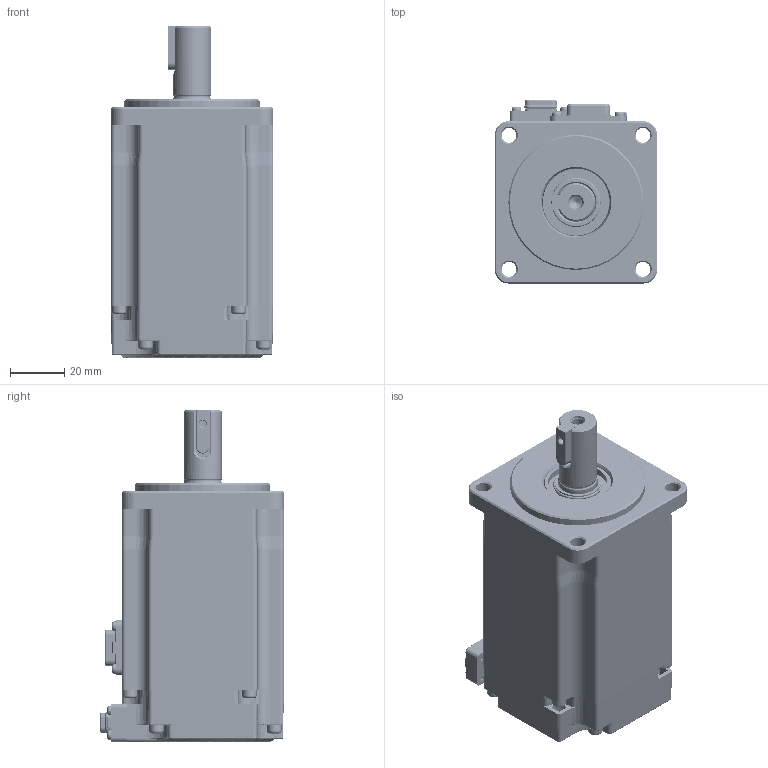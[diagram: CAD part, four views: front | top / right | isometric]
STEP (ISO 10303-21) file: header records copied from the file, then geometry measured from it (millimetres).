
FILE_DESCRIPTION((''),'2;1');
FILE_NAME('11101-01193_ASM','2024-09-05T16:01:04',('admin'),(''),'CREO PARAMETRIC BY PTC INC, 2019080','CREO PARAMETRIC BY PTC INC, 2019080','');
FILE_SCHEMA(('CONFIG_CONTROL_DESIGN'));
Products named in the file (98): 80040365_AF0; 66670034_AF0; 77840026_AF0; 77840027_AF0; 50001-00056_AF0; 40BDZZJ_AF0_ASM; 66670034_AF1; 77840026_AF1; 77840027_AF1; 50001-00056_AF1; 40BDZZJ_AF1_ASM; 66670034_AF2; 77840026_AF2; 77840027_AF2; 50001-00056_AF2; 40BDZZJ_AF2_ASM; 66670034_AF3; 77840026_AF3; 77840027_AF3; 50001-00056_AF3; 40BDZZJ_AF3_ASM; 66670034_AF4; 77840026_AF4; 77840027_AF4; 50001-00056_AF4; 40BDZZJ_AF4_ASM; 66670034_AF5; 77840026_AF5; 77840027_AF5; 50001-00056_AF5; 40BDZZJ_AF5_ASM; 66670034_AF6; 77840026_AF6; 77840027_AF6; 50001-00056_AF6; 40BDZZJ_AF6_ASM; 66670034_AF7; 77840026_AF7; 77840027_AF7; 50001-00056_AF7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
Assembly tree (100 placements, depth 4):
  11101-01193_ASM
    12112-00984_AF0_ASM
      80040365_AF0
      40BDZZJ_AF0_ASM
        66670034_AF0
        77840026_AF0
        77840027_AF0
        50001-00056_AF0
      40BDZZJ_AF1_ASM
        66670034_AF1
        77840026_AF1
        77840027_AF1
        50001-00056_AF1
      40BDZZJ_AF2_ASM
        66670034_AF2
        77840026_AF2
        77840027_AF2
        50001-00056_AF2
      40BDZZJ_AF3_ASM
        66670034_AF3
        77840026_AF3
        77840027_AF3
        50001-00056_AF3
      40BDZZJ_AF4_ASM
        66670034_AF4
        77840026_AF4
        77840027_AF4
        50001-00056_AF4
      40BDZZJ_AF5_ASM
        66670034_AF5
        77840026_AF5
        77840027_AF5
        50001-00056_AF5
      40BDZZJ_AF6_ASM
        66670034_AF6
        77840026_AF6
        77840027_AF6
        50001-00056_AF6
      40BDZZJ_AF7_ASM
        66670034_AF7
        77840026_AF7
        77840027_AF7
        50001-00056_AF7
      40BDZZJ_AF8_ASM
        66670034_AF8
        77840026_AF8
        77840027_AF8
        50001-00056_AF8
      40BDZZJ_AF9_ASM
        66670034_AF9
        77840026_AF9
        77840027_AF9
        50001-00056_AF9
      40BDZZJ_AF10_ASM
        66670034_AF10
        77840026_AF10
        77840027_AF10
        50001-00056_AF10
      40BDZZJ_AF11_ASM
        66670034_AF11
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Bounding box: 60 x 67.95 x 122.5 mm (x, y, z)
Volume: 82097.2 mm3; surface area: 69068.2 mm2
Topology: 24 solids, 47 shells, 3125 faces, 8375 edges, 5396 vertices
Faces by surface type: plane 1319, cylinder 1160, bspline 237, cone 183, torus 164, extrusion 49, sphere 13
Entity records: 154405 total; most frequent: CARTESIAN_POINT 79995, ORIENTED_EDGE 15852, DIRECTION 14122, EDGE_CURVE 7972, VERTEX_POINT 5150, AXIS2_PLACEMENT_3D 4806, VECTOR 4510, LINE 4461
